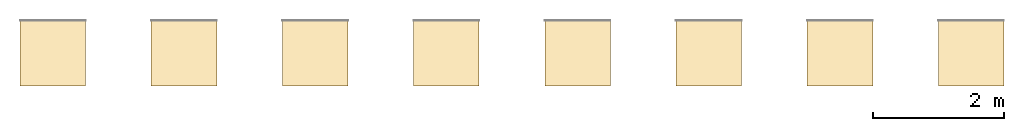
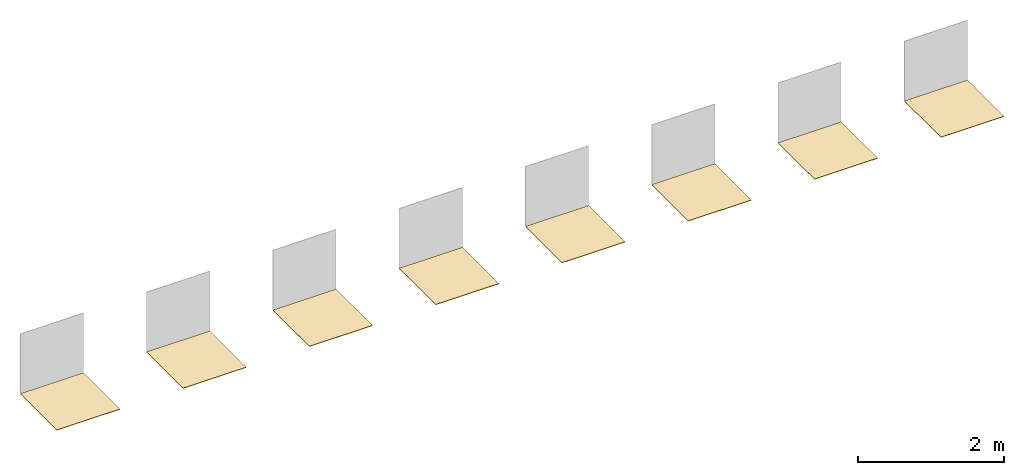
# One storey, part 2 of 2: 8 coverings.
"""IFC2X3 building model written with IfcOpenShell, lengths in millimetres."""

from ifc_helpers import new_model, entity, si_unit, converted_unit, derived_unit, direction, frame, frame_2d, origin, origin_2d_with_axis, place, context, subcontext, project, spatial, rectangle, extrude, material, layer, layer_set, layer_usage, type_object, element, save


model = new_model("IFC2X3")

# Units and contexts
model_context = context("Model", 3, precision=0.01, world=origin(), true_north=direction((6.12303176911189e-17, 1.0)))
body_context = subcontext(model_context, "Body", "Model", "MODEL_VIEW")
ifc_project = project(units=[si_unit("LENGTHUNIT", "METRE", prefix="MILLI"), si_unit("AREAUNIT", "SQUARE_METRE"), si_unit("VOLUMEUNIT", "CUBIC_METRE"), converted_unit("PLANEANGLEUNIT", "DEGREE", entity("IfcRatioMeasure", 0.0174532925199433), si_unit("PLANEANGLEUNIT", "RADIAN"), dimensions=[0, 0, 0, 0, 0, 0, 0]), si_unit("MASSUNIT", "GRAM", prefix="KILO"), derived_unit("MASSDENSITYUNIT", [(si_unit("MASSUNIT", "GRAM", prefix="KILO"), 1), (si_unit("LENGTHUNIT", "METRE"), -3)]), derived_unit("MOMENTOFINERTIAUNIT", [(si_unit("LENGTHUNIT", "METRE"), 4)]), si_unit("TIMEUNIT", "SECOND"), si_unit("FREQUENCYUNIT", "HERTZ"), si_unit("THERMODYNAMICTEMPERATUREUNIT", "DEGREE_CELSIUS"), derived_unit("THERMALTRANSMITTANCEUNIT", [(si_unit("MASSUNIT", "GRAM", prefix="KILO"), 1), (si_unit("THERMODYNAMICTEMPERATUREUNIT", "KELVIN"), -1), (si_unit("TIMEUNIT", "SECOND"), -3)]), derived_unit("VOLUMETRICFLOWRATEUNIT", [(si_unit("LENGTHUNIT", "METRE"), 3), (si_unit("TIMEUNIT", "SECOND"), -1)]), si_unit("ELECTRICCURRENTUNIT", "AMPERE"), si_unit("ELECTRICVOLTAGEUNIT", "VOLT"), si_unit("POWERUNIT", "WATT"), si_unit("FORCEUNIT", "NEWTON", prefix="KILO"), si_unit("ILLUMINANCEUNIT", "LUX"), si_unit("LUMINOUSFLUXUNIT", "LUMEN"), si_unit("LUMINOUSINTENSITYUNIT", "CANDELA"), derived_unit("USERDEFINED", [(si_unit("MASSUNIT", "GRAM", prefix="KILO"), -1), (si_unit("LENGTHUNIT", "METRE"), -2), (si_unit("TIMEUNIT", "SECOND"), 3), (si_unit("LUMINOUSFLUXUNIT", "LUMEN"), 1)]), derived_unit("LINEARVELOCITYUNIT", [(si_unit("LENGTHUNIT", "METRE"), 1), (si_unit("TIMEUNIT", "SECOND"), -1)]), si_unit("PRESSUREUNIT", "PASCAL"), derived_unit("USERDEFINED", [(si_unit("LENGTHUNIT", "METRE"), -2), (si_unit("MASSUNIT", "GRAM", prefix="KILO"), 1), (si_unit("TIMEUNIT", "SECOND"), -2)]), derived_unit("LINEARFORCEUNIT", [(si_unit("MASSUNIT", "GRAM", prefix="KILO"), 1), (si_unit("LENGTHUNIT", "METRE"), 1), (si_unit("TIMEUNIT", "SECOND"), -2), (si_unit("LENGTHUNIT", "METRE"), -1)]), derived_unit("PLANARFORCEUNIT", [(si_unit("MASSUNIT", "GRAM", prefix="KILO"), 1), (si_unit("LENGTHUNIT", "METRE"), 1), (si_unit("TIMEUNIT", "SECOND"), -2), (si_unit("LENGTHUNIT", "METRE"), -2)])], contexts=[model_context])

# Site, building, storey
site_placement = place(None, origin())
site = spatial("IfcSite", under=ifc_project, at=site_placement, Name="Default", CompositionType="ELEMENT")
building_placement = place(site_placement, origin())
building = spatial("IfcBuilding", under=site, at=building_placement, CompositionType="ELEMENT")
storey_placement = place(building_placement, origin())
storey = spatial("IfcBuildingStorey", under=building, at=storey_placement, Name="Level 1", CompositionType="ELEMENT", Elevation=0.0)

# Coverings
ifc_material_1 = material(Name="REVIGRÉS-LOCUS-HEXAGONO-16,5x19-SILK-ALLOY")
ifc_layer_1 = layer(ifc_material_1, 8.5)
ifc_layer_set_1 = layer_set([ifc_layer_1], Name="Floor:REVIGRÉS-LOCUS-HEXAGONO-16,5X19-SILK-ALLOY")
ifc_layer_usage_1 = layer_usage(ifc_layer_set_1, "AXIS3", "POSITIVE", 0.0)
covering_type_1 = type_object("IfcCoveringType", Name="Floor:REVIGRÉS-LOCUS-HEXAGONO-16,5X19-SILK-ALLOY", PredefinedType="CLADDING", material=ifc_layer_set_1)
covering_1_placement = place(storey_placement, origin())
element("IfcCovering", 1, at=covering_1_placement, inside=storey, type_object=covering_type_1, material=ifc_layer_usage_1, Name="Floor:REVIGRÉS-LOCUS-HEXAGONO-16,5X19-SILK-ALLOY", ObjectType="Floor:REVIGRÉS-LOCUS-HEXAGONO-16,5X19-SILK-ALLOY", PredefinedType="CLADDING", context=body_context, shape_type="SweptSolid", body=[
    extrude(rectangle(XDim=1000.65, YDim=1000.0, at=frame_2d((0.0, 1.4210854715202e-13), x_axis=(1.0, 0.0))), frame((2448.64271399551, 2603.50079736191, 0.0), z_axis=(0.0, 0.0, -1.0), x_axis=(0.0, 1.0, 0.0)), (0.0, 0.0, 1.0), 8.5),
])
ifc_material_2 = material(Name="REVIGRÉS-LOCUS-HEXAGONO-16,5x19-SILK-BONE")
ifc_layer_2 = layer(ifc_material_2, 8.5)
ifc_layer_set_2 = layer_set([ifc_layer_2], Name="Floor:REVIGRÉS-LOCUS-HEXAGONO-16,5X19-SILK-BONE")
ifc_layer_usage_2 = layer_usage(ifc_layer_set_2, "AXIS3", "POSITIVE", 0.0)
covering_type_2 = type_object("IfcCoveringType", Name="Floor:REVIGRÉS-LOCUS-HEXAGONO-16,5X19-SILK-BONE", PredefinedType="CLADDING", material=ifc_layer_set_2)
covering_2_placement = place(storey_placement, origin())
element("IfcCovering", 2, at=covering_2_placement, inside=storey, type_object=covering_type_2, material=ifc_layer_usage_2, Name="Floor:REVIGRÉS-LOCUS-HEXAGONO-16,5X19-SILK-BONE", ObjectType="Floor:REVIGRÉS-LOCUS-HEXAGONO-16,5X19-SILK-BONE", PredefinedType="CLADDING", context=body_context, shape_type="SweptSolid", body=[
    extrude(rectangle(XDim=1000.65, YDim=1000.0, at=origin_2d_with_axis()), frame((6448.64271399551, 2603.5007973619, 0.0), z_axis=(0.0, 0.0, -1.0), x_axis=(0.0, 1.0, 0.0)), (0.0, 0.0, 1.0), 8.5),
])
ifc_material_3 = material(Name="REVIGRÉS-LOCUS-HEXAGONO-16,5x19-SILK-GRIS")
ifc_layer_3 = layer(ifc_material_3, 8.5)
ifc_layer_set_3 = layer_set([ifc_layer_3], Name="Floor:REVIGRÉS-LOCUS-HEXAGONO-16,5X19-SILK-GRIS")
ifc_layer_usage_3 = layer_usage(ifc_layer_set_3, "AXIS3", "POSITIVE", 0.0)
covering_type_3 = type_object("IfcCoveringType", Name="Floor:REVIGRÉS-LOCUS-HEXAGONO-16,5X19-SILK-GRIS", PredefinedType="CLADDING", material=ifc_layer_set_3)
covering_3_placement = place(storey_placement, origin())
element("IfcCovering", 3, at=covering_3_placement, inside=storey, type_object=covering_type_3, material=ifc_layer_usage_3, Name="Floor:REVIGRÉS-LOCUS-HEXAGONO-16,5X19-SILK-GRIS", ObjectType="Floor:REVIGRÉS-LOCUS-HEXAGONO-16,5X19-SILK-GRIS", PredefinedType="CLADDING", context=body_context, shape_type="SweptSolid", body=[
    extrude(rectangle(XDim=1000.65, YDim=999.999999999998, at=origin_2d_with_axis()), frame((10448.6427139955, 2603.50079736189, 0.0), z_axis=(0.0, 0.0, -1.0), x_axis=(0.0, 1.0, 0.0)), (0.0, 0.0, 1.0), 8.5),
])
ifc_material_4 = material(Name="REVIGRÉS-LOCUS-HEXAGONO-16,5x19-SILK-SMOG")
ifc_layer_4 = layer(ifc_material_4, 8.5)
ifc_layer_set_4 = layer_set([ifc_layer_4], Name="Floor:REVIGRÉS-LOCUS-HEXAGONO-16,5X19-SILK-SMOG")
ifc_layer_usage_4 = layer_usage(ifc_layer_set_4, "AXIS3", "POSITIVE", 0.0)
covering_type_4 = type_object("IfcCoveringType", Name="Floor:REVIGRÉS-LOCUS-HEXAGONO-16,5X19-SILK-SMOG", PredefinedType="CLADDING", material=ifc_layer_set_4)
covering_4_placement = place(storey_placement, origin())
element("IfcCovering", 4, at=covering_4_placement, inside=storey, type_object=covering_type_4, material=ifc_layer_usage_4, Name="Floor:REVIGRÉS-LOCUS-HEXAGONO-16,5X19-SILK-SMOG", ObjectType="Floor:REVIGRÉS-LOCUS-HEXAGONO-16,5X19-SILK-SMOG", PredefinedType="CLADDING", context=body_context, shape_type="SweptSolid", body=[
    extrude(rectangle(XDim=1000.65, YDim=999.999999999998, at=origin_2d_with_axis()), frame((14448.6427139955, 2603.50079736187, 0.0), z_axis=(0.0, 0.0, -1.0), x_axis=(0.0, 1.0, 0.0)), (0.0, 0.0, 1.0), 8.5),
])
ifc_layer_5 = layer(ifc_material_1, 8.5)
ifc_layer_set_5 = layer_set([ifc_layer_5], Name="Floor:REVIGRÉS-LOCUS-HEXAGONO-16,5X19-SOFT GRIP-ALLOY")
ifc_layer_usage_5 = layer_usage(ifc_layer_set_5, "AXIS3", "POSITIVE", 0.0)
covering_type_5 = type_object("IfcCoveringType", Name="Floor:REVIGRÉS-LOCUS-HEXAGONO-16,5X19-SOFT GRIP-ALLOY", PredefinedType="CLADDING", material=ifc_layer_set_5)
covering_5_placement = place(storey_placement, origin())
element("IfcCovering", 5, at=covering_5_placement, inside=storey, type_object=covering_type_5, material=ifc_layer_usage_5, Name="Floor:REVIGRÉS-LOCUS-HEXAGONO-16,5X19-SOFT GRIP-ALLOY", ObjectType="Floor:REVIGRÉS-LOCUS-HEXAGONO-16,5X19-SOFT GRIP-ALLOY", PredefinedType="CLADDING", context=body_context, shape_type="SweptSolid", body=[
    extrude(rectangle(XDim=1000.65, YDim=999.999999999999, at=frame_2d((0.0, 5.40012479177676e-13), x_axis=(1.0, 0.0))), frame((4448.64271399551, 2603.5007973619, 0.0), z_axis=(0.0, 0.0, -1.0), x_axis=(0.0, 1.0, 0.0)), (0.0, 0.0, 1.0), 8.5),
])
ifc_layer_6 = layer(ifc_material_2, 8.5)
ifc_layer_set_6 = layer_set([ifc_layer_6], Name="Floor:REVIGRÉS-LOCUS-HEXAGONO-16,5X19-SOFT GRIP-BONE")
ifc_layer_usage_6 = layer_usage(ifc_layer_set_6, "AXIS3", "POSITIVE", 0.0)
covering_type_6 = type_object("IfcCoveringType", Name="Floor:REVIGRÉS-LOCUS-HEXAGONO-16,5X19-SOFT GRIP-BONE", PredefinedType="CLADDING", material=ifc_layer_set_6)
covering_6_placement = place(storey_placement, origin())
element("IfcCovering", 6, at=covering_6_placement, inside=storey, type_object=covering_type_6, material=ifc_layer_usage_6, Name="Floor:REVIGRÉS-LOCUS-HEXAGONO-16,5X19-SOFT GRIP-BONE", ObjectType="Floor:REVIGRÉS-LOCUS-HEXAGONO-16,5X19-SOFT GRIP-BONE", PredefinedType="CLADDING", context=body_context, shape_type="SweptSolid", body=[
    extrude(rectangle(XDim=1000.65, YDim=1000.0, at=origin_2d_with_axis()), frame((8448.64271399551, 2603.50079736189, 0.0), z_axis=(0.0, 0.0, -1.0), x_axis=(0.0, 1.0, 0.0)), (0.0, 0.0, 1.0), 8.5),
])
ifc_layer_7 = layer(ifc_material_3, 8.5)
ifc_layer_set_7 = layer_set([ifc_layer_7], Name="Floor:REVIGRÉS-LOCUS-HEXAGONO-16,5X19-SOFT GRIP-GRIS")
ifc_layer_usage_7 = layer_usage(ifc_layer_set_7, "AXIS3", "POSITIVE", 0.0)
covering_type_7 = type_object("IfcCoveringType", Name="Floor:REVIGRÉS-LOCUS-HEXAGONO-16,5X19-SOFT GRIP-GRIS", PredefinedType="CLADDING", material=ifc_layer_set_7)
covering_7_placement = place(storey_placement, origin())
element("IfcCovering", 7, at=covering_7_placement, inside=storey, type_object=covering_type_7, material=ifc_layer_usage_7, Name="Floor:REVIGRÉS-LOCUS-HEXAGONO-16,5X19-SOFT GRIP-GRIS", ObjectType="Floor:REVIGRÉS-LOCUS-HEXAGONO-16,5X19-SOFT GRIP-GRIS", PredefinedType="CLADDING", context=body_context, shape_type="SweptSolid", body=[
    extrude(rectangle(XDim=1000.65, YDim=999.999999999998, at=origin_2d_with_axis()), frame((12448.6427139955, 2603.50079736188, 0.0), z_axis=(0.0, 0.0, -1.0), x_axis=(0.0, 1.0, 0.0)), (0.0, 0.0, 1.0), 8.5),
])
ifc_layer_8 = layer(ifc_material_4, 8.5)
ifc_layer_set_8 = layer_set([ifc_layer_8], Name="Floor:REVIGRÉS-LOCUS-HEXAGONO-16,5X19-SOFT GRIP-SMOG")
ifc_layer_usage_8 = layer_usage(ifc_layer_set_8, "AXIS3", "POSITIVE", 0.0)
covering_type_8 = type_object("IfcCoveringType", Name="Floor:REVIGRÉS-LOCUS-HEXAGONO-16,5X19-SOFT GRIP-SMOG", PredefinedType="CLADDING", material=ifc_layer_set_8)
covering_8_placement = place(storey_placement, origin())
element("IfcCovering", 8, at=covering_8_placement, inside=storey, type_object=covering_type_8, material=ifc_layer_usage_8, Name="Floor:REVIGRÉS-LOCUS-HEXAGONO-16,5X19-SOFT GRIP-SMOG", ObjectType="Floor:REVIGRÉS-LOCUS-HEXAGONO-16,5X19-SOFT GRIP-SMOG", PredefinedType="CLADDING", context=body_context, shape_type="SweptSolid", body=[
    extrude(rectangle(XDim=1000.65, YDim=999.999999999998, at=origin_2d_with_axis()), frame((16448.6427139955, 2603.50079736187, 0.0), z_axis=(0.0, 0.0, -1.0), x_axis=(0.0, 1.0, 0.0)), (0.0, 0.0, 1.0), 8.5),
])

save(model, "model.ifc")
